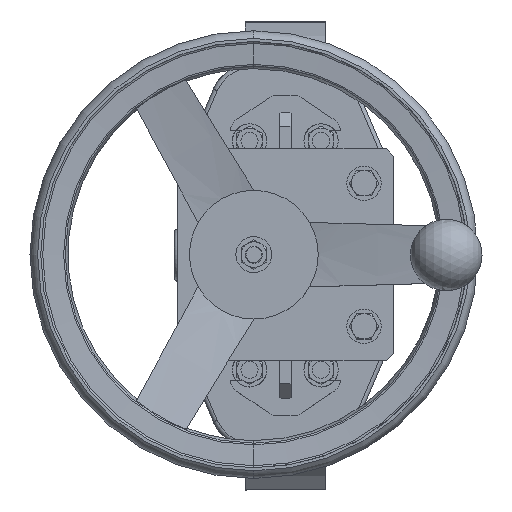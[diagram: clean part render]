
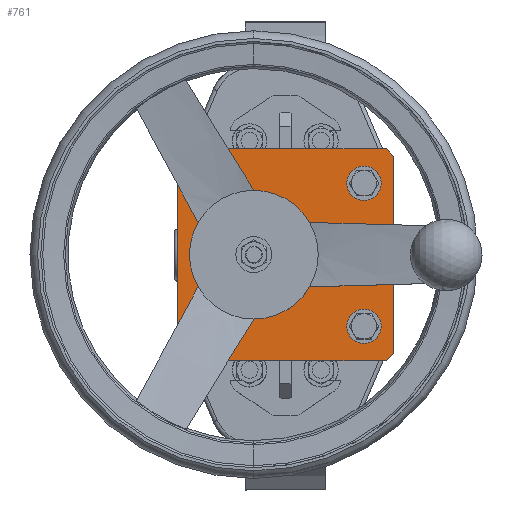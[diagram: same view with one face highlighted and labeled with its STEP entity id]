
A CAD part, top view. The second image highlights one B-rep face of the part: STEP entity #761.
In plain terms, the highlighted planar face has unit normal (0, 0, 1).
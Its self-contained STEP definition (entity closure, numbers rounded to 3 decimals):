
#761=ADVANCED_FACE('',(#2256,#2257,#2258,#2259,#2260,#2261),#2262,.T.);
#2256=FACE_BOUND('',#4867,.T.);
#2257=FACE_BOUND('',#4868,.T.);
#2258=FACE_OUTER_BOUND('',#4869,.T.);
#2259=FACE_BOUND('',#4870,.T.);
#2260=FACE_BOUND('',#4871,.T.);
#2261=FACE_BOUND('',#4872,.T.);
#2262=PLANE('',#4873);
#4867=EDGE_LOOP('',(#10150,#10151));
#4868=EDGE_LOOP('',(#10152,#10153,#10154));
#4869=EDGE_LOOP('',(#10155,#10156,#10157,#10158,#10159,#10160,#10161,#10162));
#4870=EDGE_LOOP('',(#10163,#10164,#10165));
#4871=EDGE_LOOP('',(#10166,#10167));
#4872=EDGE_LOOP('',(#10168,#10169));
#4873=AXIS2_PLACEMENT_3D('',#10170,#10171,#10172);
#10150=ORIENTED_EDGE('',*,*,#16249,.T.);
#10151=ORIENTED_EDGE('',*,*,#17118,.T.);
#10152=ORIENTED_EDGE('',*,*,#16695,.F.);
#10153=ORIENTED_EDGE('',*,*,#16694,.F.);
#10154=ORIENTED_EDGE('',*,*,#17104,.F.);
#10155=ORIENTED_EDGE('',*,*,#17119,.T.);
#10156=ORIENTED_EDGE('',*,*,#17120,.T.);
#10157=ORIENTED_EDGE('',*,*,#17121,.T.);
#10158=ORIENTED_EDGE('',*,*,#17122,.T.);
#10159=ORIENTED_EDGE('',*,*,#17123,.T.);
#10160=ORIENTED_EDGE('',*,*,#17124,.T.);
#10161=ORIENTED_EDGE('',*,*,#17125,.T.);
#10162=ORIENTED_EDGE('',*,*,#17126,.T.);
#10163=ORIENTED_EDGE('',*,*,#17127,.F.);
#10164=ORIENTED_EDGE('',*,*,#17128,.F.);
#10165=ORIENTED_EDGE('',*,*,#16438,.F.);
#10166=ORIENTED_EDGE('',*,*,#16072,.T.);
#10167=ORIENTED_EDGE('',*,*,#17129,.T.);
#10168=ORIENTED_EDGE('',*,*,#17130,.F.);
#10169=ORIENTED_EDGE('',*,*,#16361,.F.);
#10170=CARTESIAN_POINT('',(-75.5,-74.,492.9));
#10171=DIRECTION('',(0.,0.,1.));
#10172=DIRECTION('',(1.,0.,0.));
#16072=EDGE_CURVE('',#19227,#19224,#19228,.T.);
#16249=EDGE_CURVE('',#19577,#19574,#19578,.T.);
#16361=EDGE_CURVE('',#19784,#19787,#19788,.T.);
#16438=EDGE_CURVE('',#19931,#19934,#19935,.T.);
#16694=EDGE_CURVE('',#20428,#20431,#20432,.T.);
#16695=EDGE_CURVE('',#20431,#20433,#20434,.T.);
#17104=EDGE_CURVE('',#20433,#20428,#21129,.T.);
#17118=EDGE_CURVE('',#19574,#19577,#21149,.T.);
#17119=EDGE_CURVE('',#21150,#21151,#21152,.T.);
#17120=EDGE_CURVE('',#21151,#21153,#21154,.T.);
#17121=EDGE_CURVE('',#21153,#21155,#21156,.T.);
#17122=EDGE_CURVE('',#21155,#21157,#21158,.T.);
#17123=EDGE_CURVE('',#21157,#21159,#21160,.T.);
#17124=EDGE_CURVE('',#21159,#21161,#21162,.T.);
#17125=EDGE_CURVE('',#21161,#21163,#21164,.T.);
#17126=EDGE_CURVE('',#21163,#21150,#21165,.T.);
#17127=EDGE_CURVE('',#21166,#19931,#21167,.T.);
#17128=EDGE_CURVE('',#19934,#21166,#21168,.T.);
#17129=EDGE_CURVE('',#19224,#19227,#21169,.T.);
#17130=EDGE_CURVE('',#19787,#19784,#21170,.T.);
#19224=VERTEX_POINT('',#23990);
#19227=VERTEX_POINT('',#23994);
#19228=CIRCLE('',#23995,12.);
#19574=VERTEX_POINT('',#24466);
#19577=VERTEX_POINT('',#24470);
#19578=CIRCLE('',#24471,12.);
#19784=VERTEX_POINT('',#24858);
#19787=VERTEX_POINT('',#24862);
#19788=CIRCLE('',#24863,20.);
#19931=VERTEX_POINT('',#25144);
#19934=VERTEX_POINT('',#25148);
#19935=CIRCLE('',#25149,12.);
#20428=VERTEX_POINT('',#26097);
#20431=VERTEX_POINT('',#26101);
#20432=CIRCLE('',#26102,12.);
#20433=VERTEX_POINT('',#26103);
#20434=CIRCLE('',#26104,12.);
#21129=CIRCLE('',#27767,12.);
#21149=CIRCLE('',#27828,12.);
#21150=VERTEX_POINT('',#27829);
#21151=VERTEX_POINT('',#27830);
#21152=LINE('',#27831,#27832);
#21153=VERTEX_POINT('',#27833);
#21154=LINE('',#27834,#27835);
#21155=VERTEX_POINT('',#27836);
#21156=LINE('',#27837,#27838);
#21157=VERTEX_POINT('',#27839);
#21158=LINE('',#27840,#27841);
#21159=VERTEX_POINT('',#27842);
#21160=LINE('',#27843,#27844);
#21161=VERTEX_POINT('',#27845);
#21162=LINE('',#27846,#27847);
#21163=VERTEX_POINT('',#27848);
#21164=LINE('',#27849,#27850);
#21165=LINE('',#27851,#27852);
#21166=VERTEX_POINT('',#27853);
#21167=CIRCLE('',#27854,12.);
#21168=CIRCLE('',#27855,12.);
#21169=CIRCLE('',#27856,12.);
#21170=CIRCLE('',#27857,20.);
#23990=CARTESIAN_POINT('',(-55.,-38.,492.9));
#23994=CARTESIAN_POINT('',(-55.,-62.,492.9));
#23995=AXIS2_PLACEMENT_3D('',#32750,#32751,#32752);
#24466=CARTESIAN_POINT('',(55.,38.,492.9));
#24470=CARTESIAN_POINT('',(55.,62.,492.9));
#24471=AXIS2_PLACEMENT_3D('',#33097,#33098,#33099);
#24858=CARTESIAN_POINT('',(-42.,0.,492.9));
#24862=CARTESIAN_POINT('',(-2.,0.,492.9));
#24863=AXIS2_PLACEMENT_3D('',#33308,#33309,#33310);
#25144=CARTESIAN_POINT('',(-55.,38.,492.9));
#25148=CARTESIAN_POINT('',(-55.,62.,492.9));
#25149=AXIS2_PLACEMENT_3D('',#33448,#33449,#33450);
#26097=CARTESIAN_POINT('',(55.,-38.,492.9));
#26101=CARTESIAN_POINT('',(43.,-50.,492.9));
#26102=AXIS2_PLACEMENT_3D('',#33899,#33900,#33901);
#26103=CARTESIAN_POINT('',(55.,-62.,492.9));
#26104=AXIS2_PLACEMENT_3D('',#33902,#33903,#33904);
#27767=AXIS2_PLACEMENT_3D('',#34553,#34554,#34555);
#27828=AXIS2_PLACEMENT_3D('',#34572,#34573,#34574);
#27829=CARTESIAN_POINT('',(75.5,-69.,492.9));
#27830=CARTESIAN_POINT('',(75.5,69.,492.9));
#27831=CARTESIAN_POINT('',(75.5,-74.,492.9));
#27832=VECTOR('',#34575,1000.);
#27833=CARTESIAN_POINT('',(70.5,74.,492.9));
#27834=CARTESIAN_POINT('',(71.5,73.,492.9));
#27835=VECTOR('',#34576,1000.);
#27836=CARTESIAN_POINT('',(-70.5,74.,492.9));
#27837=CARTESIAN_POINT('',(75.5,74.,492.9));
#27838=VECTOR('',#34577,1000.);
#27839=CARTESIAN_POINT('',(-75.5,69.,492.9));
#27840=CARTESIAN_POINT('',(-147.,-2.5,492.9));
#27841=VECTOR('',#34578,1000.);
#27842=CARTESIAN_POINT('',(-75.5,-69.,492.9));
#27843=CARTESIAN_POINT('',(-75.5,74.,492.9));
#27844=VECTOR('',#34579,1000.);
#27845=CARTESIAN_POINT('',(-70.5,-74.,492.9));
#27846=CARTESIAN_POINT('',(-73.,-71.5,492.9));
#27847=VECTOR('',#34580,1000.);
#27848=CARTESIAN_POINT('',(70.5,-74.,492.9));
#27849=CARTESIAN_POINT('',(-75.5,-74.,492.9));
#27850=VECTOR('',#34581,1000.);
#27851=CARTESIAN_POINT('',(-2.5,-147.,492.9));
#27852=VECTOR('',#34582,1000.);
#27853=CARTESIAN_POINT('',(-67.,50.,492.9));
#27854=AXIS2_PLACEMENT_3D('',#34583,#34584,#34585);
#27855=AXIS2_PLACEMENT_3D('',#34586,#34587,#34588);
#27856=AXIS2_PLACEMENT_3D('',#34589,#34590,#34591);
#27857=AXIS2_PLACEMENT_3D('',#34592,#34593,#34594);
#32750=CARTESIAN_POINT('',(-55.,-50.,492.9));
#32751=DIRECTION('',(0.,0.,-1.));
#32752=DIRECTION('',(0.,-1.,0.));
#33097=CARTESIAN_POINT('',(55.,50.,492.9));
#33098=DIRECTION('',(0.,0.,-1.));
#33099=DIRECTION('',(0.,1.,0.));
#33308=CARTESIAN_POINT('',(-22.,0.,492.9));
#33309=DIRECTION('',(0.,0.,1.));
#33310=DIRECTION('',(1.,0.,0.));
#33448=CARTESIAN_POINT('',(-55.,50.,492.9));
#33449=DIRECTION('',(0.,0.,1.));
#33450=DIRECTION('',(-1.,0.,0.));
#33899=CARTESIAN_POINT('',(55.,-50.,492.9));
#33900=DIRECTION('',(0.,0.,1.));
#33901=DIRECTION('',(-1.,0.,0.));
#33902=CARTESIAN_POINT('',(55.,-50.,492.9));
#33903=DIRECTION('',(0.,0.,1.));
#33904=DIRECTION('',(-1.,0.,0.));
#34553=CARTESIAN_POINT('',(55.,-50.,492.9));
#34554=DIRECTION('',(0.,0.,1.));
#34555=DIRECTION('',(-1.,0.,0.));
#34572=CARTESIAN_POINT('',(55.,50.,492.9));
#34573=DIRECTION('',(0.,0.,-1.));
#34574=DIRECTION('',(0.,1.,0.));
#34575=DIRECTION('',(0.,1.,0.));
#34576=DIRECTION('',(-0.707,0.707,0.));
#34577=DIRECTION('',(-1.,0.,0.));
#34578=DIRECTION('',(-0.707,-0.707,0.));
#34579=DIRECTION('',(0.,-1.,0.));
#34580=DIRECTION('',(0.707,-0.707,0.));
#34581=DIRECTION('',(1.,0.,0.));
#34582=DIRECTION('',(0.707,0.707,0.));
#34583=CARTESIAN_POINT('',(-55.,50.,492.9));
#34584=DIRECTION('',(0.,0.,1.));
#34585=DIRECTION('',(-1.,0.,0.));
#34586=CARTESIAN_POINT('',(-55.,50.,492.9));
#34587=DIRECTION('',(0.,0.,1.));
#34588=DIRECTION('',(-1.,0.,0.));
#34589=CARTESIAN_POINT('',(-55.,-50.,492.9));
#34590=DIRECTION('',(0.,0.,-1.));
#34591=DIRECTION('',(0.,-1.,0.));
#34592=CARTESIAN_POINT('',(-22.,0.,492.9));
#34593=DIRECTION('',(0.,0.,1.));
#34594=DIRECTION('',(1.,0.,0.));
